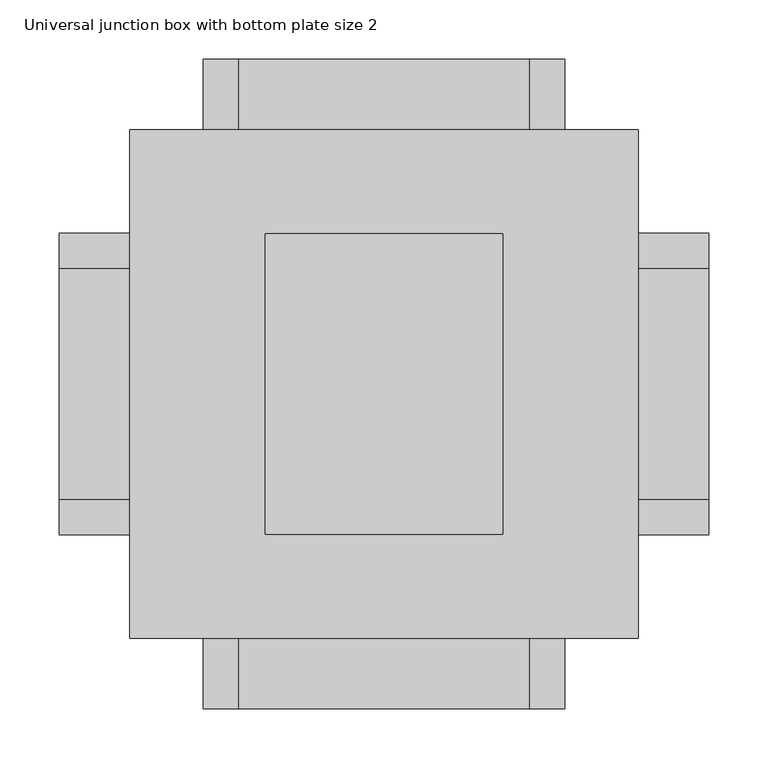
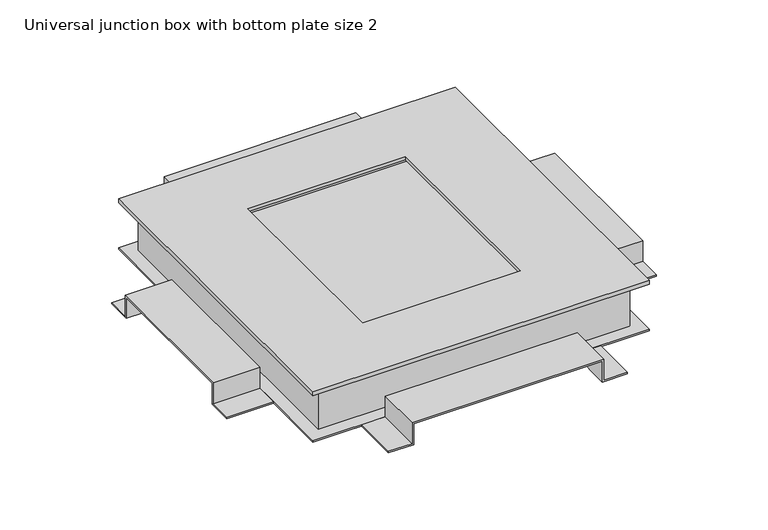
"""IFC4 building model written with IfcOpenShell, lengths in millimetres: cable carrier fitting geometry, Electrical-Installations_Hager_Universal-Junction-Box-With-Bottom-Plate-Size-2 : Universal junction box with bottom plate size 2."""

from ifc_helpers import new_model, si_unit, frame, origin, place, context, project, spatial, polyline, outline, extrude, faceted_brep, source, transform, mapped, element, save


def universal_junction_box_with_bottom_plate_size_2_2fa8826b(model_context):
    return source(origin(), model_context, "Body", "SolidModel", [
        extrude(outline(polyline([(-14.0, -152.0), (-14.0, -120.0), (14.0, -120.0), (14.0, 120.0), (-14.0, 120.0), (-14.0, 152.0), (-12.0, 152.0), (-12.0, 122.0), (16.0, 122.0), (16.0, -122.0), (-12.0, -122.0), (-12.0, -152.0), (-14.0, -152.0)])), frame((0.0, 214.0, 0.0), z_axis=(0.0, 1.0, 0.0), x_axis=(0.0, 0.0, 1.0)), (0.0, 0.0, 1.0), 59.0),
        extrude(outline(polyline([(-127.0, -14.0), (-127.0, -12.0), (-97.0, -12.0), (-97.0, 16.0), (97.0, 16.0), (97.0, -12.0), (127.0, -12.0), (127.0, -14.0), (95.0, -14.0), (95.0, 14.0), (-95.0, 14.0), (-95.0, -14.0), (-127.0, -14.0)])), frame((-273.0, 0.0, 0.0), z_axis=(1.0, 0.0, 0.0), x_axis=(0.0, 1.0, 0.0)), (0.0, 0.0, 1.0), 59.0),
        extrude(outline(polyline([(-14.0, -152.0), (-14.0, -120.0), (14.0, -120.0), (14.0, 120.0), (-14.0, 120.0), (-14.0, 152.0), (-12.0, 152.0), (-12.0, 122.0), (16.0, 122.0), (16.0, -122.0), (-12.0, -122.0), (-12.0, -152.0), (-14.0, -152.0)])), frame((0.0, -273.0, 0.0), z_axis=(0.0, 1.0, 0.0), x_axis=(0.0, 0.0, 1.0)), (0.0, 0.0, 1.0), 59.0),
        extrude(outline(polyline([(-127.0, -14.0), (-127.0, -12.0), (-97.0, -12.0), (-97.0, 16.0), (97.0, 16.0), (97.0, -12.0), (127.0, -12.0), (127.0, -14.0), (95.0, -14.0), (95.0, 14.0), (-95.0, 14.0), (-95.0, -14.0), (-127.0, -14.0)])), frame((214.0, 0.0, 0.0), z_axis=(1.0, 0.0, 0.0), x_axis=(0.0, 1.0, 0.0)), (0.0, 0.0, 1.0), 59.0),
        faceted_brep([(-214.0, -214.0, 54.0), (214.0, -214.0, 54.0), (214.0, 214.0, 54.0), (-214.0, 214.0, 54.0), (-100.0, 126.5, 54.0), (100.0, 126.5, 54.0), (100.0, -126.5, 54.0), (-100.0, -126.5, 54.0), (-214.0, -214.0, 49.0), (-214.0, 214.0, 49.0), (214.0, 214.0, 49.0), (214.0, -214.0, 49.0), (192.0, 192.0, 49.0), (-192.0, 192.0, 49.0), (-192.0, -192.0, 49.0), (192.0, -192.0, 49.0), (-100.0, 126.5, 49.7820613), (100.0, 126.5, 49.7820613), (100.0, -126.5, 49.7820613), (-100.0, -126.5, 49.7820613), (192.0, 192.0, 49.7820613), (192.0, -192.0, 49.7820613), (-192.0, -192.0, 49.7820613), (-192.0, 192.0, 49.7820613)], [[[0, 1, 2, 3], [4, 5, 6, 7]], [[8, 9, 10, 11], [12, 13, 14, 15]], [[1, 0, 8, 11]], [[2, 1, 11, 10]], [[3, 2, 10, 9]], [[0, 3, 9, 8]], [[5, 4, 16, 17]], [[6, 5, 17, 18]], [[7, 6, 18, 19]], [[4, 7, 19, 16]], [[20, 21, 22, 23], [17, 16, 19, 18]], [[20, 23, 13, 12]], [[23, 22, 14, 13]], [[22, 21, 15, 14]], [[21, 20, 12, 15]]]),
        extrude(outline(polyline([(214.0, 214.0), (214.0, -214.0), (-214.0, -214.0), (-214.0, 214.0), (214.0, 214.0)])), frame((0.0, 0.0, -14.0), z_axis=(0.0, 0.0, 1.0), x_axis=(1.0, 0.0, 0.0)), (0.0, 0.0, 1.0), 2.0),
        faceted_brep([(-198.0, 198.0, 49.0), (-198.0, -198.0, 49.0), (198.0, -198.0, 49.0), (198.0, 198.0, 49.0), (-192.0, 192.0, 49.0), (192.0, 192.0, 49.0), (192.0, -192.0, 49.0), (-192.0, -192.0, 49.0), (-198.0, 198.0, -14.0), (198.0, 198.0, -14.0), (198.0, -198.0, -14.0), (-198.0, -198.0, -14.0), (192.0, 192.0, -6.1362798), (-192.0, 192.0, -6.1362798), (-192.0, -192.0, -6.1362798), (192.0, -192.0, -6.1362798)], [[[0, 1, 2, 3], [4, 5, 6, 7]], [[8, 9, 10, 11]], [[1, 0, 8, 11]], [[2, 1, 11, 10]], [[3, 2, 10, 9]], [[0, 3, 9, 8]], [[12, 13, 14, 15]], [[13, 12, 5, 4]], [[14, 13, 4, 7]], [[15, 14, 7, 6]], [[12, 15, 6, 5]]]),
    ])


if __name__ == "__main__":
    model = new_model("IFC4")
    model_context = context("Model", 3, world=origin())
    ifc_project = project(units=[si_unit("LENGTHUNIT", "METRE", prefix="MILLI")], contexts=[model_context])
    site = spatial("IfcSite", under=ifc_project)
    building = spatial("IfcBuilding", under=site)
    placement = place(None, origin())
    universal_junction_box_with_bottom_plate_size_2_shape = universal_junction_box_with_bottom_plate_size_2_2fa8826b(model_context)
    element("IfcCableCarrierFitting", 1, ObjectType="Electrical-Installations_Hager_Universal-Junction-Box-With-Bottom-Plate-Size-2 : Universal junction box with bottom plate size 2", at=placement, inside=building, context=model_context, shape_type="MappedRepresentation", body=[
        mapped(universal_junction_box_with_bottom_plate_size_2_shape, transform((0.0, 0.0, 0.0), x_axis=(1.0, 0.0, 0.0), y_axis=(0.0, 1.0, 0.0), z_axis=(0.0, 0.0, 1.0))),
    ])
    save(model, "model.ifc")
